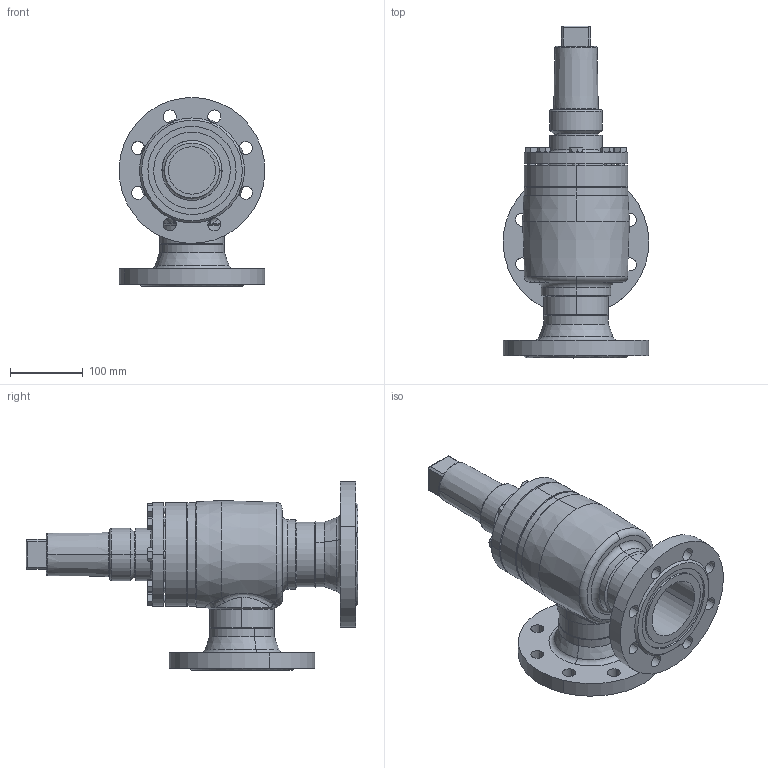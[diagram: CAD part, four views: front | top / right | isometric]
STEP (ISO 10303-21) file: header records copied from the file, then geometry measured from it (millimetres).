
FILE_DESCRIPTION (( 'STEP AP214' ), '1' );
FILE_NAME ('RVA29420D18-DN080_DIN-FL-N_PS40.STEP', '2007-01-08T09:21:07', ( 'Herr Grams' ), ( 'AWP GmbH' ), 'SwSTEP 2.0', 'SolidWorks 2002296', '' );
FILE_SCHEMA (( 'AUTOMOTIVE_DESIGN' ));
Length unit declared in the file: millimetre
Products named in the file (13): RVA29420D18-DN080_DIN-FL-N_PS40; Kappe16402_DN080-100_Standard; RVA29300E18_Deck-Schr-DN80_Standard; Deckel29300E18-DN80_Standard; Sechskantschraube-DIN933_M10x 30; Gehäuse-kpl16420-DN080_DIN_PS40_Standard; Gehäuse-kpl16400-DN080_R1_Standard; Gehäuse16400-DN080_Standard; Kopfstück16300-DN080_Standard; bead-DN080-1_Standard; bead-DN080-4_Standard; bead-DN080-3_Standard; Flansch-DIN-Nut_PS40_DIN-Flansch-DN080_PS40-Nut
Assembly tree (20 placements, depth 4):
  RVA29420D18-DN080_DIN-FL-N_PS40
    RVA29300E18_Deck-Schr-DN80_Standard
      Sechskantschraube-DIN933_M10x 30  x8
      Deckel29300E18-DN80_Standard
    Gehäuse-kpl16420-DN080_DIN_PS40_Standard
      Flansch-DIN-Nut_PS40_DIN-Flansch-DN080_PS40-Nut  x2
      bead-DN080-4_Standard
      bead-DN080-3_Standard
      Gehäuse-kpl16400-DN080_R1_Standard
        Gehäuse16400-DN080_Standard
        bead-DN080-1_Standard
        Kopfstück16300-DN080_Standard
    Kappe16402_DN080-100_Standard
Bounding box: 199.81 x 455 x 258.9 mm (x, y, z)
Volume: 3316221.4 mm3; surface area: 543619.7 mm2
Topology: 17 solids, 17 shells, 440 faces, 1008 edges, 617 vertices
Faces by surface type: cylinder 144, cone 139, plane 119, bspline 20, torus 18
Entity records: 19417 total; most frequent: CARTESIAN_POINT 13357, DIRECTION 1171, ORIENTED_EDGE 1060, EDGE_CURVE 530, AXIS2_PLACEMENT_3D 514, VERTEX_POINT 333, EDGE_LOOP 285, CIRCLE 281
